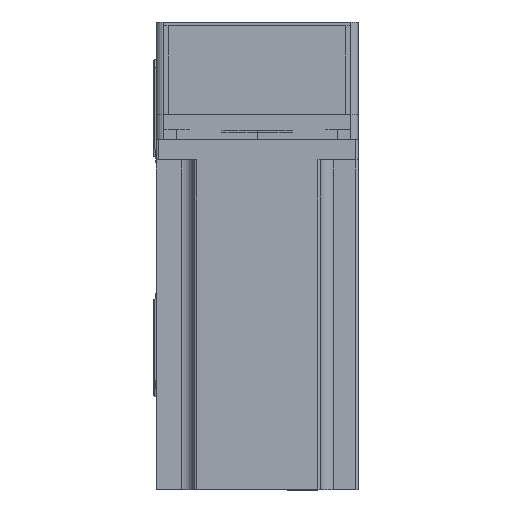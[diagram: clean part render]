
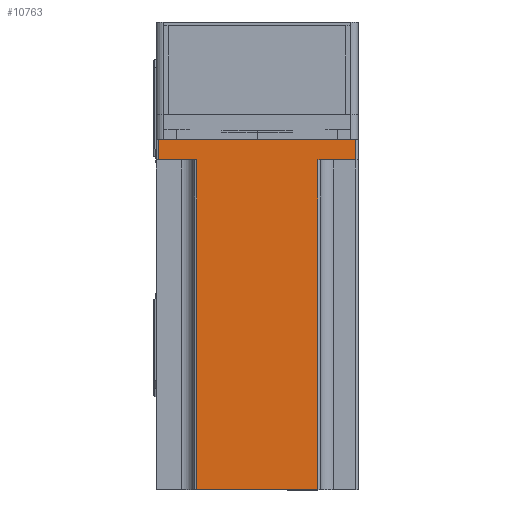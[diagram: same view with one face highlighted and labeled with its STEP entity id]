
A CAD part, top view. The second image highlights one B-rep face of the part: STEP entity #10763.
In plain terms, the highlighted planar face has unit normal (0, 0, 1) as drawn and (0, 1, 0) by its records, which use the part's own axes.
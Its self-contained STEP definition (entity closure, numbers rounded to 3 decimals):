
#2303 = DIRECTION ( 'NONE',  ( 1., 0., 0. ) ) ;
#2844 = LINE ( 'NONE', #35753, #35005 ) ;
#5408 = VECTOR ( 'NONE', #45708, 1000. ) ;
#6350 = EDGE_CURVE ( 'NONE', #10067, #13502, #35068, .T. ) ;
#6386 = CARTESIAN_POINT ( 'NONE',  ( -24., 40., 8. ) ) ;
#6702 = PLANE ( 'NONE',  #40050 ) ;
#7789 = CARTESIAN_POINT ( 'NONE',  ( 24., 40., 138.3 ) ) ;
#8783 = ORIENTED_EDGE ( 'NONE', *, *, #50846, .T. ) ;
#10067 = VERTEX_POINT ( 'NONE', #55076 ) ;
#10155 = CARTESIAN_POINT ( 'NONE',  ( -24., 40., 138.3 ) ) ;
#10763 = ADVANCED_FACE ( 'NONE', ( #23706 ), #6702, .F. ) ;
#13502 = VERTEX_POINT ( 'NONE', #37701 ) ;
#15566 = ORIENTED_EDGE ( 'NONE', *, *, #6350, .F. ) ;
#18436 = CARTESIAN_POINT ( 'NONE',  ( 39., 40., 138.3 ) ) ;
#20099 = LINE ( 'NONE', #7789, #44145 ) ;
#21530 = VERTEX_POINT ( 'NONE', #6386 ) ;
#22026 = VERTEX_POINT ( 'NONE', #28864 ) ;
#22919 = VECTOR ( 'NONE', #55141, 1000. ) ;
#23257 = ORIENTED_EDGE ( 'NONE', *, *, #58644, .T. ) ;
#23706 = FACE_OUTER_BOUND ( 'NONE', #41482, .T. ) ;
#24676 = LINE ( 'NONE', #40842, #5408 ) ;
#25945 = VERTEX_POINT ( 'NONE', #38983 ) ;
#26114 = CARTESIAN_POINT ( 'NONE',  ( 40., 40., 138.3 ) ) ;
#26750 = DIRECTION ( 'NONE',  ( 0., 0., 1. ) ) ;
#26799 = LINE ( 'NONE', #26114, #49805 ) ;
#27498 = VERTEX_POINT ( 'NONE', #52537 ) ;
#28864 = CARTESIAN_POINT ( 'NONE',  ( 24., 40., 138.3 ) ) ;
#29637 = DIRECTION ( 'NONE',  ( 0., -1., 0. ) ) ;
#31957 = EDGE_CURVE ( 'NONE', #48079, #21530, #57724, .T. ) ;
#32253 = EDGE_CURVE ( 'NONE', #22026, #25945, #26799, .T. ) ;
#32704 = ORIENTED_EDGE ( 'NONE', *, *, #32253, .F. ) ;
#33065 = LINE ( 'NONE', #18436, #45398 ) ;
#34164 = EDGE_CURVE ( 'NONE', #22026, #13502, #20099, .T. ) ;
#35005 = VECTOR ( 'NONE', #26750, 1000. ) ;
#35060 = LINE ( 'NONE', #10155, #47350 ) ;
#35068 = LINE ( 'NONE', #50552, #22919 ) ;
#35753 = CARTESIAN_POINT ( 'NONE',  ( -39., 40., 138.3 ) ) ;
#36700 = EDGE_CURVE ( 'NONE', #21530, #25945, #35060, .T. ) ;
#37507 = CARTESIAN_POINT ( 'NONE',  ( -39., 40., 8. ) ) ;
#37527 = DIRECTION ( 'NONE',  ( 0., 0., 1. ) ) ;
#37701 = CARTESIAN_POINT ( 'NONE',  ( 24., 40., 8. ) ) ;
#38983 = CARTESIAN_POINT ( 'NONE',  ( -24., 40., 138.3 ) ) ;
#40050 = AXIS2_PLACEMENT_3D ( 'NONE', #57175, #29637, #2303 ) ;
#40810 = CARTESIAN_POINT ( 'NONE',  ( -25., 40., 8. ) ) ;
#40842 = CARTESIAN_POINT ( 'NONE',  ( 40., 40., 0. ) ) ;
#41194 = CARTESIAN_POINT ( 'NONE',  ( -39., 40., 0. ) ) ;
#41482 = EDGE_LOOP ( 'NONE', ( #53783, #59246, #32704, #51179, #15566, #46941, #8783, #23257 ) ) ;
#42981 = VERTEX_POINT ( 'NONE', #41194 ) ;
#44085 = EDGE_CURVE ( 'NONE', #10067, #27498, #33065, .T. ) ;
#44145 = VECTOR ( 'NONE', #44455, 1000. ) ;
#44455 = DIRECTION ( 'NONE',  ( 0., 0., -1. ) ) ;
#45398 = VECTOR ( 'NONE', #45947, 1000. ) ;
#45578 = VECTOR ( 'NONE', #59270, 1000. ) ;
#45708 = DIRECTION ( 'NONE',  ( -1., 0., 0. ) ) ;
#45947 = DIRECTION ( 'NONE',  ( 0., 0., -1. ) ) ;
#46941 = ORIENTED_EDGE ( 'NONE', *, *, #44085, .T. ) ;
#47350 = VECTOR ( 'NONE', #37527, 1000. ) ;
#48079 = VERTEX_POINT ( 'NONE', #37507 ) ;
#49805 = VECTOR ( 'NONE', #58229, 1000. ) ;
#50552 = CARTESIAN_POINT ( 'NONE',  ( 25., 40., 8. ) ) ;
#50846 = EDGE_CURVE ( 'NONE', #27498, #42981, #24676, .T. ) ;
#51179 = ORIENTED_EDGE ( 'NONE', *, *, #34164, .T. ) ;
#52537 = CARTESIAN_POINT ( 'NONE',  ( 39., 40., 0. ) ) ;
#53783 = ORIENTED_EDGE ( 'NONE', *, *, #31957, .T. ) ;
#55076 = CARTESIAN_POINT ( 'NONE',  ( 39., 40., 8. ) ) ;
#55141 = DIRECTION ( 'NONE',  ( -1., 0., 0. ) ) ;
#57175 = CARTESIAN_POINT ( 'NONE',  ( 40., 40., 138.3 ) ) ;
#57724 = LINE ( 'NONE', #40810, #45578 ) ;
#58229 = DIRECTION ( 'NONE',  ( -1., 0., 0. ) ) ;
#58644 = EDGE_CURVE ( 'NONE', #42981, #48079, #2844, .T. ) ;
#59246 = ORIENTED_EDGE ( 'NONE', *, *, #36700, .T. ) ;
#59270 = DIRECTION ( 'NONE',  ( 1., 0., 0. ) ) ;
